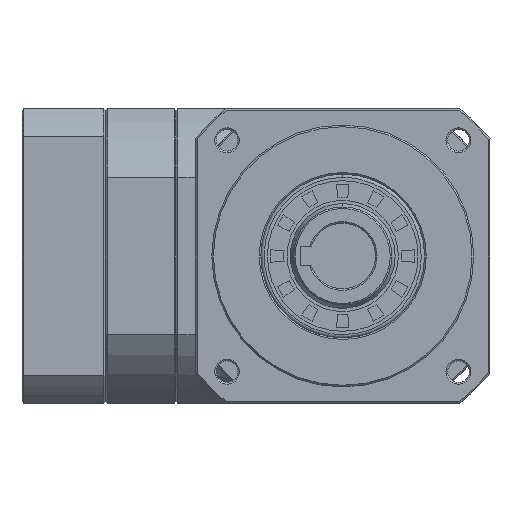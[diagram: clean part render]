
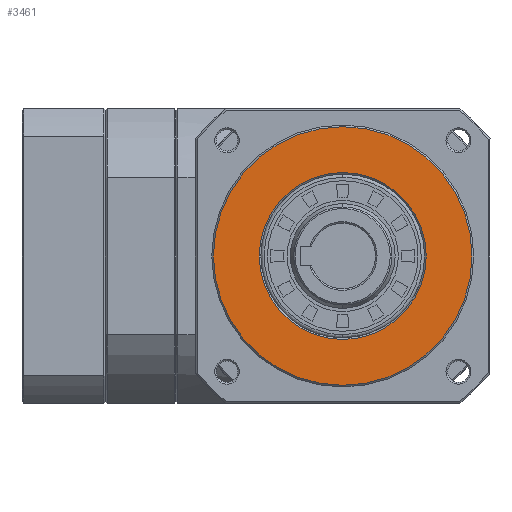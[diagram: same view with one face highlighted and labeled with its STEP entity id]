
A CAD part, left-side view. The second image highlights one B-rep face of the part: STEP entity #3461.
In plain terms, the highlighted planar face has unit normal (-1, 0, 0).
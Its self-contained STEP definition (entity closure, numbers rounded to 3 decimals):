
#1019 = DIRECTION ( 'NONE',  ( 0., 0., 1. ) ) ;
#1707 = EDGE_CURVE ( 'NONE', #71953, #58918, #15687, .T. ) ;
#2187 = ORIENTED_EDGE ( 'NONE', *, *, #2734, .T. ) ;
#2734 = EDGE_CURVE ( 'NONE', #58918, #71953, #12491, .T. ) ;
#3461 = ADVANCED_FACE ( 'NONE', ( #85367, #68740 ), #53474, .F. ) ;
#3513 = DIRECTION ( 'NONE',  ( -1., 0., 0. ) ) ;
#9045 = CARTESIAN_POINT ( 'NONE',  ( 0., 0., 0. ) ) ;
#10170 = EDGE_LOOP ( 'NONE', ( #79357, #2187 ) ) ;
#12491 = CIRCLE ( 'NONE', #78676, 39.5 ) ;
#15273 = CIRCLE ( 'NONE', #15716, 25.5 ) ;
#15687 = CIRCLE ( 'NONE', #33403, 39.5 ) ;
#15716 = AXIS2_PLACEMENT_3D ( 'NONE', #61442, #21818, #1019 ) ;
#17300 = CARTESIAN_POINT ( 'NONE',  ( 0., 0., 0. ) ) ;
#21818 = DIRECTION ( 'NONE',  ( -1., 0., 0. ) ) ;
#24007 = EDGE_LOOP ( 'NONE', ( #28515, #83145 ) ) ;
#25587 = DIRECTION ( 'NONE',  ( 1., 0., 0. ) ) ;
#26703 = CARTESIAN_POINT ( 'NONE',  ( 0., -39.974, 39.974 ) ) ;
#27314 = DIRECTION ( 'NONE',  ( -1., 0., 0. ) ) ;
#28417 = AXIS2_PLACEMENT_3D ( 'NONE', #26703, #25587, #86093 ) ;
#28515 = ORIENTED_EDGE ( 'NONE', *, *, #50576, .F. ) ;
#33403 = AXIS2_PLACEMENT_3D ( 'NONE', #67182, #27314, #80578 ) ;
#43593 = VERTEX_POINT ( 'NONE', #49900 ) ;
#45982 = CIRCLE ( 'NONE', #78943, 25.5 ) ;
#49297 = DIRECTION ( 'NONE',  ( 0., 0., -1. ) ) ;
#49900 = CARTESIAN_POINT ( 'NONE',  ( 0., 0., -25.5 ) ) ;
#50576 = EDGE_CURVE ( 'NONE', #67027, #43593, #45982, .T. ) ;
#53474 = PLANE ( 'NONE',  #28417 ) ;
#57793 = DIRECTION ( 'NONE',  ( 0., 0., 1. ) ) ;
#58918 = VERTEX_POINT ( 'NONE', #77832 ) ;
#61442 = CARTESIAN_POINT ( 'NONE',  ( 0., 0., 0. ) ) ;
#67027 = VERTEX_POINT ( 'NONE', #67356 ) ;
#67182 = CARTESIAN_POINT ( 'NONE',  ( 0., 0., 0. ) ) ;
#67356 = CARTESIAN_POINT ( 'NONE',  ( 0., 0., 25.5 ) ) ;
#68740 = FACE_OUTER_BOUND ( 'NONE', #10170, .T. ) ;
#68820 = DIRECTION ( 'NONE',  ( -1., 0., 0. ) ) ;
#71953 = VERTEX_POINT ( 'NONE', #85881 ) ;
#73054 = EDGE_CURVE ( 'NONE', #43593, #67027, #15273, .T. ) ;
#77832 = CARTESIAN_POINT ( 'NONE',  ( 0., 0., 39.5 ) ) ;
#78676 = AXIS2_PLACEMENT_3D ( 'NONE', #9045, #68820, #49297 ) ;
#78943 = AXIS2_PLACEMENT_3D ( 'NONE', #17300, #3513, #57793 ) ;
#79357 = ORIENTED_EDGE ( 'NONE', *, *, #1707, .T. ) ;
#80578 = DIRECTION ( 'NONE',  ( 0., 0., -1. ) ) ;
#83145 = ORIENTED_EDGE ( 'NONE', *, *, #73054, .F. ) ;
#85367 = FACE_BOUND ( 'NONE', #24007, .T. ) ;
#85881 = CARTESIAN_POINT ( 'NONE',  ( 0., 0., -39.5 ) ) ;
#86093 = DIRECTION ( 'NONE',  ( 0., 0., -1. ) ) ;
